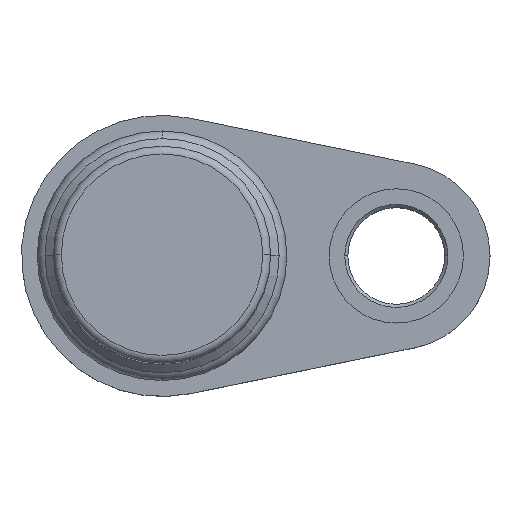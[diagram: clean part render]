
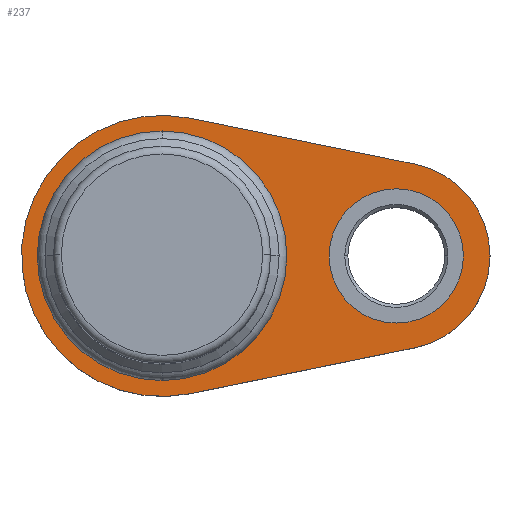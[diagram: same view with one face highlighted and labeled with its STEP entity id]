
A CAD part, top view. The second image highlights one B-rep face of the part: STEP entity #237.
In plain terms, the highlighted planar face has unit normal (0, 0, 1).
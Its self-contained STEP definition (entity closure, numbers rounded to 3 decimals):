
#11 = AXIS2_PLACEMENT_3D ( 'NONE', #928, #1182, #1157 ) ;
#31 = CIRCLE ( 'NONE', #11, 9. ) ;
#50 = CARTESIAN_POINT ( 'NONE',  ( 15., 0., 0. ) ) ;
#102 = FACE_BOUND ( 'NONE', #372, .T. ) ;
#157 = ORIENTED_EDGE ( 'NONE', *, *, #2382, .T. ) ;
#180 = EDGE_CURVE ( 'NONE', #1666, #2876, #31, .T. ) ;
#205 = CIRCLE ( 'NONE', #1952, 6. ) ;
#237 = ADVANCED_FACE ( 'NONE', ( #102, #1287, #758 ), #1194, .F. ) ;
#265 = VERTEX_POINT ( 'NONE', #697 ) ;
#297 = ORIENTED_EDGE ( 'NONE', *, *, #1199, .F. ) ;
#346 = CIRCLE ( 'NONE', #3002, 7.7 ) ;
#363 = VERTEX_POINT ( 'NONE', #2286 ) ;
#372 = EDGE_LOOP ( 'NONE', ( #2112, #157 ) ) ;
#408 = ORIENTED_EDGE ( 'NONE', *, *, #180, .F. ) ;
#484 = CIRCLE ( 'NONE', #726, 6. ) ;
#515 = DIRECTION ( 'NONE',  ( -1., 0., 0. ) ) ;
#529 = DIRECTION ( 'NONE',  ( -1., 0., 0. ) ) ;
#670 = CARTESIAN_POINT ( 'NONE',  ( 15., 0., 0. ) ) ;
#676 = CARTESIAN_POINT ( 'NONE',  ( 1.8, 8.818, 0. ) ) ;
#680 = CARTESIAN_POINT ( 'NONE',  ( 21., 0., 0. ) ) ;
#697 = CARTESIAN_POINT ( 'NONE',  ( 16.2, -5.879, 0. ) ) ;
#726 = AXIS2_PLACEMENT_3D ( 'NONE', #50, #1969, #515 ) ;
#758 = FACE_BOUND ( 'NONE', #1239, .T. ) ;
#829 = VERTEX_POINT ( 'NONE', #2447 ) ;
#851 = AXIS2_PLACEMENT_3D ( 'NONE', #2861, #2227, #529 ) ;
#873 = EDGE_CURVE ( 'NONE', #2876, #2675, #2873, .T. ) ;
#895 = VECTOR ( 'NONE', #3014, 1000. ) ;
#914 = EDGE_CURVE ( 'NONE', #2181, #363, #1088, .T. ) ;
#928 = CARTESIAN_POINT ( 'NONE',  ( 0., 0., 0. ) ) ;
#1042 = CIRCLE ( 'NONE', #2352, 4.3 ) ;
#1088 = CIRCLE ( 'NONE', #851, 7.7 ) ;
#1110 = CARTESIAN_POINT ( 'NONE',  ( -7.7, 0., 0. ) ) ;
#1157 = DIRECTION ( 'NONE',  ( -1., 0., 0. ) ) ;
#1180 = EDGE_CURVE ( 'NONE', #829, #2379, #1042, .T. ) ;
#1182 = DIRECTION ( 'NONE',  ( 0., 0., -1. ) ) ;
#1194 = PLANE ( 'NONE',  #2196 ) ;
#1199 = EDGE_CURVE ( 'NONE', #2675, #2938, #484, .T. ) ;
#1208 = CARTESIAN_POINT ( 'NONE',  ( 16.2, 5.879, 0. ) ) ;
#1219 = DIRECTION ( 'NONE',  ( 0., 0., -1. ) ) ;
#1239 = EDGE_LOOP ( 'NONE', ( #1516, #2389 ) ) ;
#1268 = CARTESIAN_POINT ( 'NONE',  ( 1.8, 8.818, 0. ) ) ;
#1287 = FACE_OUTER_BOUND ( 'NONE', #2101, .T. ) ;
#1359 = EDGE_CURVE ( 'NONE', #265, #1666, #2337, .T. ) ;
#1383 = ORIENTED_EDGE ( 'NONE', *, *, #1359, .F. ) ;
#1414 = DIRECTION ( 'NONE',  ( 0., 0., -1. ) ) ;
#1468 = DIRECTION ( 'NONE',  ( -1., 0., 0. ) ) ;
#1494 = DIRECTION ( 'NONE',  ( 0.98, -0.2, 0. ) ) ;
#1516 = ORIENTED_EDGE ( 'NONE', *, *, #1180, .T. ) ;
#1610 = ORIENTED_EDGE ( 'NONE', *, *, #2905, .F. ) ;
#1666 = VERTEX_POINT ( 'NONE', #2584 ) ;
#1689 = DIRECTION ( 'NONE',  ( -1., 0., 0. ) ) ;
#1708 = DIRECTION ( 'NONE',  ( 0., 0., -1. ) ) ;
#1729 = DIRECTION ( 'NONE',  ( -1., 0., 0. ) ) ;
#1950 = DIRECTION ( 'NONE',  ( -1., 0., 0. ) ) ;
#1952 = AXIS2_PLACEMENT_3D ( 'NONE', #670, #1414, #2127 ) ;
#1969 = DIRECTION ( 'NONE',  ( 0., 0., -1. ) ) ;
#2097 = CARTESIAN_POINT ( 'NONE',  ( 19.3, 0., 0. ) ) ;
#2101 = EDGE_LOOP ( 'NONE', ( #408, #1383, #1610, #297, #2973 ) ) ;
#2112 = ORIENTED_EDGE ( 'NONE', *, *, #914, .T. ) ;
#2117 = CARTESIAN_POINT ( 'NONE',  ( 16.2, -5.879, 0. ) ) ;
#2127 = DIRECTION ( 'NONE',  ( -1., 0., 0. ) ) ;
#2146 = AXIS2_PLACEMENT_3D ( 'NONE', #2619, #1708, #1950 ) ;
#2168 = CARTESIAN_POINT ( 'NONE',  ( 0., 0., 0. ) ) ;
#2181 = VERTEX_POINT ( 'NONE', #1110 ) ;
#2196 = AXIS2_PLACEMENT_3D ( 'NONE', #2168, #1219, #1468 ) ;
#2227 = DIRECTION ( 'NONE',  ( 0., 0., -1. ) ) ;
#2286 = CARTESIAN_POINT ( 'NONE',  ( 7.7, 0., 0. ) ) ;
#2337 = LINE ( 'NONE', #2117, #895 ) ;
#2352 = AXIS2_PLACEMENT_3D ( 'NONE', #2372, #2399, #1689 ) ;
#2372 = CARTESIAN_POINT ( 'NONE',  ( 15., 0., 0. ) ) ;
#2379 = VERTEX_POINT ( 'NONE', #2097 ) ;
#2382 = EDGE_CURVE ( 'NONE', #363, #2181, #346, .T. ) ;
#2389 = ORIENTED_EDGE ( 'NONE', *, *, #2611, .T. ) ;
#2399 = DIRECTION ( 'NONE',  ( 0., 0., -1. ) ) ;
#2447 = CARTESIAN_POINT ( 'NONE',  ( 10.7, 0., 0. ) ) ;
#2584 = CARTESIAN_POINT ( 'NONE',  ( 1.8, -8.818, 0. ) ) ;
#2611 = EDGE_CURVE ( 'NONE', #2379, #829, #2947, .T. ) ;
#2619 = CARTESIAN_POINT ( 'NONE',  ( 15., 0., 0. ) ) ;
#2650 = CARTESIAN_POINT ( 'NONE',  ( 0., 0., 0. ) ) ;
#2675 = VERTEX_POINT ( 'NONE', #1208 ) ;
#2728 = DIRECTION ( 'NONE',  ( 0., 0., -1. ) ) ;
#2737 = VECTOR ( 'NONE', #1494, 1000. ) ;
#2861 = CARTESIAN_POINT ( 'NONE',  ( 0., 0., 0. ) ) ;
#2873 = LINE ( 'NONE', #1268, #2737 ) ;
#2876 = VERTEX_POINT ( 'NONE', #676 ) ;
#2905 = EDGE_CURVE ( 'NONE', #2938, #265, #205, .T. ) ;
#2938 = VERTEX_POINT ( 'NONE', #680 ) ;
#2947 = CIRCLE ( 'NONE', #2146, 4.3 ) ;
#2973 = ORIENTED_EDGE ( 'NONE', *, *, #873, .F. ) ;
#3002 = AXIS2_PLACEMENT_3D ( 'NONE', #2650, #2728, #1729 ) ;
#3014 = DIRECTION ( 'NONE',  ( -0.98, -0.2, 0. ) ) ;
